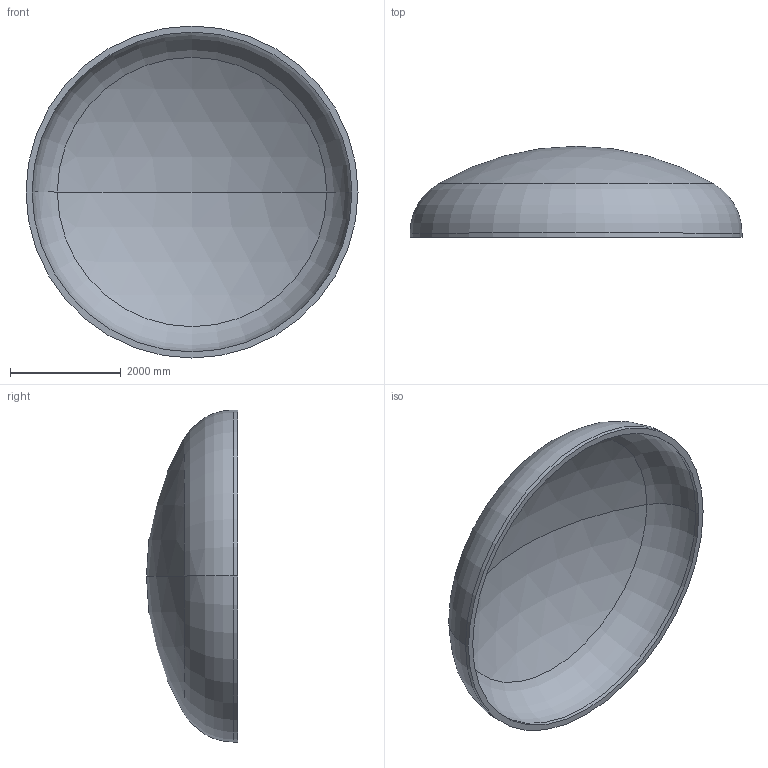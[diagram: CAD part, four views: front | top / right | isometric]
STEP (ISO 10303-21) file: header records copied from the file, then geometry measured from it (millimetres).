
FILE_DESCRIPTION (( 'STEP AP203' ), '1' );
FILE_NAME ('DIN 28013 Korbbogenform_-_Boden DIN 28013 - 6000 x 75 - I - s=110.step', '2016-07-04T10:39:07', ( '' ), ( '' ), 'SwSTEP 2.0', 'SolidWorks 2013', '' );
FILE_SCHEMA (( 'CONFIG_CONTROL_DESIGN' ));
Length unit declared in the file: millimetre
Products named in the file (1): DIN 28013 Korbbogenform_-_Boden DIN 28013 - 6000 x 75 - I - s=110
Bounding box: 6000 x 1645.18 x 6000 mm (x, y, z)
Volume: 4358272547.7 mm3; surface area: 81302069.6 mm2
Topology: 1 solids, 1 shells, 13 faces, 24 edges, 14 vertices
Faces by surface type: torus 4, cylinder 4, sphere 4, plane 1
Entity records: 407 total; most frequent: DIRECTION 72, CARTESIAN_POINT 52, ORIENTED_EDGE 48, AXIS2_PLACEMENT_3D 34, EDGE_CURVE 24, CIRCLE 20, VERTEX_POINT 14, EDGE_LOOP 14
